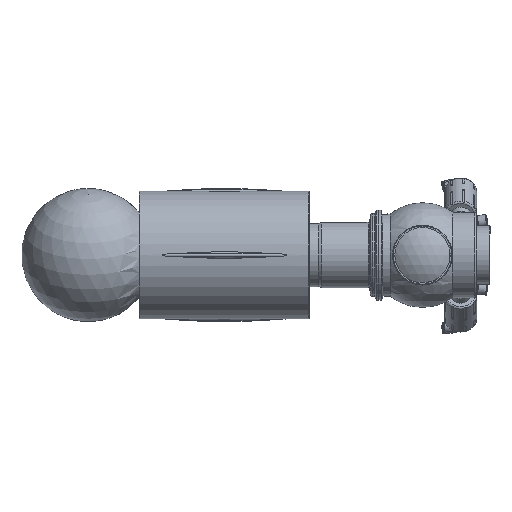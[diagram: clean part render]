
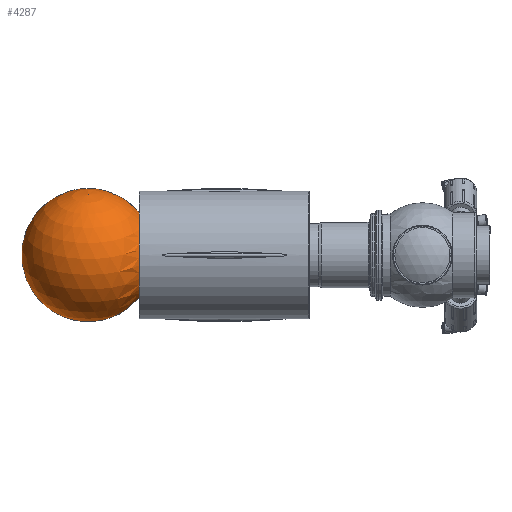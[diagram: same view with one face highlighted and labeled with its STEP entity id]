
A CAD part, left-side view. The second image highlights one B-rep face of the part: STEP entity #4287.
In plain terms, the highlighted spherical face has radius 72.5 mm.
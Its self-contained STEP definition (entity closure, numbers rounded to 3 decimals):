
#127=FACE_BOUND('',#1237,.T.);
#919=SPHERICAL_SURFACE('',#4792,72.5);
#990=FACE_OUTER_BOUND('',#1236,.T.);
#1236=EDGE_LOOP('',(#3204,#3205));
#1237=EDGE_LOOP('',(#3206));
#1535=CIRCLE('',#4793,72.5);
#1536=CIRCLE('',#4794,46.648);
#1871=VERTEX_POINT('',#7231);
#1872=VERTEX_POINT('',#7232);
#1873=VERTEX_POINT('',#7234);
#2383=EDGE_CURVE('',#1871,#1872,#1535,.T.);
#2384=EDGE_CURVE('',#1873,#1873,#1536,.T.);
#3204=ORIENTED_EDGE('',*,*,#2383,.T.);
#3205=ORIENTED_EDGE('',*,*,#2383,.F.);
#3206=ORIENTED_EDGE('',*,*,#2384,.F.);
#4287=ADVANCED_FACE('',(#990,#127),#919,.T.);
#4792=AXIS2_PLACEMENT_3D('',#7230,#5553,#5554);
#4793=AXIS2_PLACEMENT_3D('',#7233,#5555,#5556);
#4794=AXIS2_PLACEMENT_3D('',#7235,#5557,#5558);
#5553=DIRECTION('center_axis',(0.,0.,1.));
#5554=DIRECTION('ref_axis',(1.,0.,0.));
#5555=DIRECTION('center_axis',(0.,-1.,0.));
#5556=DIRECTION('ref_axis',(-1.,0.,0.));
#5557=DIRECTION('center_axis',(0.,-1.,0.));
#5558=DIRECTION('ref_axis',(1.,0.,0.));
#7230=CARTESIAN_POINT('Origin',(150.,266.5,0.));
#7231=CARTESIAN_POINT('',(150.,266.5,72.5));
#7232=CARTESIAN_POINT('',(150.,266.5,-72.5));
#7233=CARTESIAN_POINT('Origin',(150.,266.5,0.));
#7234=CARTESIAN_POINT('',(196.648,211.,0.));
#7235=CARTESIAN_POINT('Origin',(150.,211.,0.));
